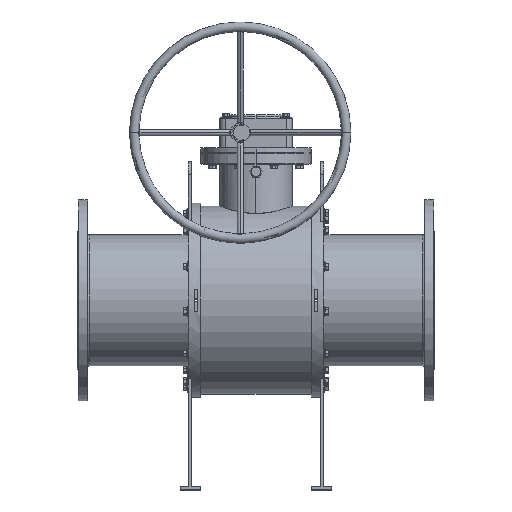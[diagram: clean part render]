
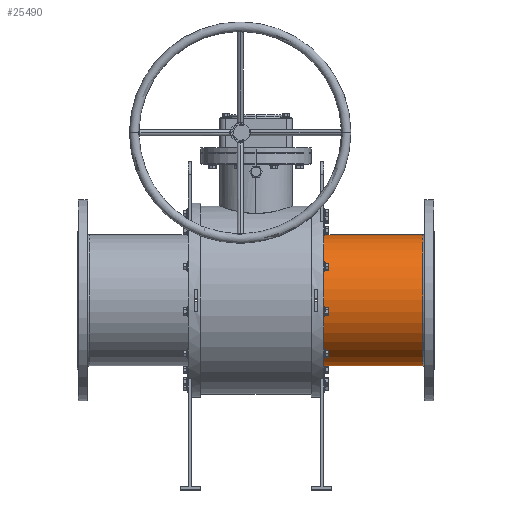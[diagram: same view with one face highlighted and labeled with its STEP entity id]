
A CAD part, top view. The second image highlights one B-rep face of the part: STEP entity #25490.
In plain terms, the highlighted cylindrical face has radius 207.5 mm (diameter 415 mm), a partial arc.
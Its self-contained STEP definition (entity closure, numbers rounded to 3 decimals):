
#7 = LINE ( 'NONE', #6385, #2276 ) ;
#98 = LINE ( 'NONE', #2173, #23857 ) ;
#294 = CARTESIAN_POINT ( 'NONE',  ( 528., -207.5, 0. ) ) ;
#712 = EDGE_LOOP ( 'NONE', ( #11142, #3230, #26073, #4153 ) ) ;
#1386 = DIRECTION ( 'NONE',  ( -1., 0., 0. ) ) ;
#2173 = CARTESIAN_POINT ( 'NONE',  ( -565., 207.5, 0. ) ) ;
#2276 = VECTOR ( 'NONE', #4858, 1000. ) ;
#3230 = ORIENTED_EDGE ( 'NONE', *, *, #13598, .T. ) ;
#3710 = DIRECTION ( 'NONE',  ( 1., 0., 0. ) ) ;
#4153 = ORIENTED_EDGE ( 'NONE', *, *, #19709, .F. ) ;
#4858 = DIRECTION ( 'NONE',  ( -1., 0., 0. ) ) ;
#6385 = CARTESIAN_POINT ( 'NONE',  ( -565., -207.5, 0. ) ) ;
#7145 = DIRECTION ( 'NONE',  ( -1., 0., 0. ) ) ;
#9053 = CIRCLE ( 'NONE', #24592, 207.5 ) ;
#9985 = CARTESIAN_POINT ( 'NONE',  ( -565., 0., 0. ) ) ;
#10646 = DIRECTION ( 'NONE',  ( -1., 0., 0. ) ) ;
#11142 = ORIENTED_EDGE ( 'NONE', *, *, #23965, .T. ) ;
#11254 = AXIS2_PLACEMENT_3D ( 'NONE', #22741, #3710, #12182 ) ;
#11666 = FACE_OUTER_BOUND ( 'NONE', #712, .T. ) ;
#12182 = DIRECTION ( 'NONE',  ( 0., 0., -1. ) ) ;
#13541 = DIRECTION ( 'NONE',  ( 0., 1., 0. ) ) ;
#13598 = EDGE_CURVE ( 'NONE', #17729, #23699, #98, .T. ) ;
#15630 = CARTESIAN_POINT ( 'NONE',  ( 528., 0., 0. ) ) ;
#17027 = CIRCLE ( 'NONE', #11254, 207.5 ) ;
#17729 = VERTEX_POINT ( 'NONE', #20588 ) ;
#18347 = DIRECTION ( 'NONE',  ( 0., -1., 0. ) ) ;
#18740 = VERTEX_POINT ( 'NONE', #23844 ) ;
#19709 = EDGE_CURVE ( 'NONE', #25462, #18740, #7, .T. ) ;
#20588 = CARTESIAN_POINT ( 'NONE',  ( 528., 207.5, 0. ) ) ;
#22435 = AXIS2_PLACEMENT_3D ( 'NONE', #9985, #1386, #18347 ) ;
#22741 = CARTESIAN_POINT ( 'NONE',  ( 215., 0., 0. ) ) ;
#23259 = EDGE_CURVE ( 'NONE', #23699, #18740, #17027, .T. ) ;
#23699 = VERTEX_POINT ( 'NONE', #24445 ) ;
#23844 = CARTESIAN_POINT ( 'NONE',  ( 215., -207.5, 0. ) ) ;
#23857 = VECTOR ( 'NONE', #10646, 1000. ) ;
#23965 = EDGE_CURVE ( 'NONE', #25462, #17729, #9053, .T. ) ;
#24445 = CARTESIAN_POINT ( 'NONE',  ( 215., 207.5, 0. ) ) ;
#24592 = AXIS2_PLACEMENT_3D ( 'NONE', #15630, #7145, #13541 ) ;
#24729 = CYLINDRICAL_SURFACE ( 'NONE', #22435, 207.5 ) ;
#25462 = VERTEX_POINT ( 'NONE', #294 ) ;
#25490 = ADVANCED_FACE ( 'NONE', ( #11666 ), #24729, .T. ) ;
#26073 = ORIENTED_EDGE ( 'NONE', *, *, #23259, .T. ) ;
